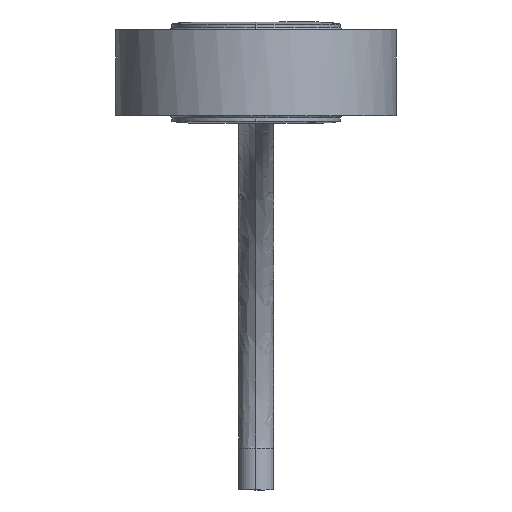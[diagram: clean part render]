
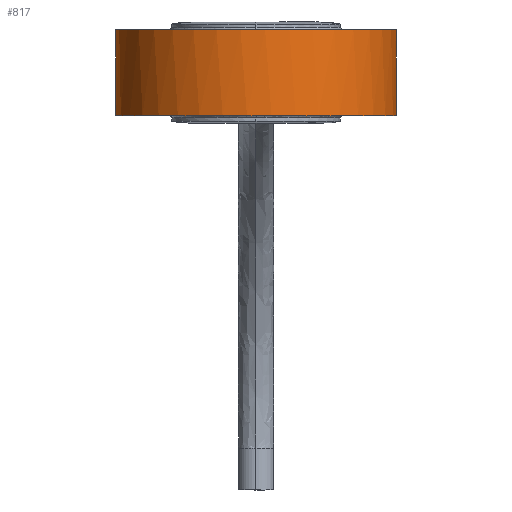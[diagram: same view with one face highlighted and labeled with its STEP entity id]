
A CAD part, front view. The second image highlights one B-rep face of the part: STEP entity #817.
In plain terms, the highlighted free-form (B-spline) face has degree [10, 1] with [11, 2] control points.
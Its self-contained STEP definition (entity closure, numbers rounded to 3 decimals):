
#15 = CARTESIAN_POINT ( 'NONE',  ( 15.033, 4.754, 0.506 ) ) ;
#36 = VECTOR ( 'NONE', #246, 1000. ) ;
#50 = CARTESIAN_POINT ( 'NONE',  ( -3.25, 11.344, 0.65 ) ) ;
#57 = VERTEX_POINT ( 'NONE', #295 ) ;
#73 = CARTESIAN_POINT ( 'NONE',  ( 3.25, 11.344, 0.65 ) ) ;
#79 = ORIENTED_EDGE ( 'NONE', *, *, #1736, .T. ) ;
#98 = CARTESIAN_POINT ( 'NONE',  ( 3.25, 11.344, 7.85 ) ) ;
#187 = CARTESIAN_POINT ( 'NONE',  ( -15.055, 3.491, 0.65 ) ) ;
#189 = CARTESIAN_POINT ( 'NONE',  ( 12.004, -15.288, 0.506 ) ) ;
#204 = VERTEX_POINT ( 'NONE', #2318 ) ;
#205 = CARTESIAN_POINT ( 'NONE',  ( -8.864, 10.49, 7.994 ) ) ;
#209 = VECTOR ( 'NONE', #589, 1000. ) ;
#246 = DIRECTION ( 'NONE',  ( 0., 0., 1. ) ) ;
#260 = VERTEX_POINT ( 'NONE', #2332 ) ;
#275 = ORIENTED_EDGE ( 'NONE', *, *, #900, .T. ) ;
#295 = CARTESIAN_POINT ( 'NONE',  ( -3.25, 11.344, 3.438 ) ) ;
#311 = EDGE_CURVE ( 'NONE', #550, #57, #2601, .T. ) ;
#331 = VERTEX_POINT ( 'NONE', #552 ) ;
#405 = CARTESIAN_POINT ( 'NONE',  ( 1.933, 11.641, 7.994 ) ) ;
#414 = EDGE_CURVE ( 'NONE', #260, #204, #2395, .T. ) ;
#420 = CARTESIAN_POINT ( 'NONE',  ( -15.033, 4.754, 0.506 ) ) ;
#425 = B_SPLINE_SURFACE_WITH_KNOTS ( 'NONE', 10, 1, ( 
 ( #405, #1273 ),
 ( #1873, #1229 ),
 ( #868, #15 ),
 ( #2685, #2058 ),
 ( #1013, #189 ),
 ( #620, #812 ),
 ( #460, #1259 ),
 ( #1026, #2697 ),
 ( #1645, #420 ),
 ( #205, #2709 ),
 ( #1697, #2535 ) ),
 .UNSPECIFIED., .F., .F., .F.,
 ( 11, 11 ),
 ( 2, 2 ),
 ( -6.119, -0.165 ),
 ( 0.216, 7.704 ),
 .UNSPECIFIED. ) ;
#459 = EDGE_LOOP ( 'NONE', ( #275, #1312, #648, #685, #2169, #1671, #79, #2597 ) ) ;
#460 = CARTESIAN_POINT ( 'NONE',  ( -11.957, -15.288, 7.994 ) ) ;
#518 = VECTOR ( 'NONE', #656, 1000. ) ;
#546 = EDGE_CURVE ( 'NONE', #799, #550, #802, .T. ) ;
#550 = VERTEX_POINT ( 'NONE', #1428 ) ;
#552 = CARTESIAN_POINT ( 'NONE',  ( 3.25, 11.344, 0.65 ) ) ;
#589 = DIRECTION ( 'NONE',  ( 0., 0., -1. ) ) ;
#594 = DIRECTION ( 'NONE',  ( 0., 0., -1. ) ) ;
#601 = CARTESIAN_POINT ( 'NONE',  ( -3.25, 11.344, 4.25 ) ) ;
#602 = CARTESIAN_POINT ( 'NONE',  ( 16.215, -5.786, 0.65 ) ) ;
#620 = CARTESIAN_POINT ( 'NONE',  ( -0.032, -20.326, 7.994 ) ) ;
#632 = CARTESIAN_POINT ( 'NONE',  ( -11.013, -15.072, 7.85 ) ) ;
#646 = CARTESIAN_POINT ( 'NONE',  ( -3.25, 11.344, 7.85 ) ) ;
#648 = ORIENTED_EDGE ( 'NONE', *, *, #2059, .T. ) ;
#650 = VECTOR ( 'NONE', #594, 1000. ) ;
#656 = DIRECTION ( 'NONE',  ( 0., 0., 1. ) ) ;
#661 = CARTESIAN_POINT ( 'NONE',  ( -3.25, 11.344, 7.85 ) ) ;
#685 = ORIENTED_EDGE ( 'NONE', *, *, #832, .T. ) ;
#799 = VERTEX_POINT ( 'NONE', #661 ) ;
#802 = LINE ( 'NONE', #2466, #650 ) ;
#810 = CARTESIAN_POINT ( 'NONE',  ( 11.046, -15.071, 0.65 ) ) ;
#812 = CARTESIAN_POINT ( 'NONE',  ( -0.032, -20.326, 0.506 ) ) ;
#817 = ADVANCED_FACE ( 'NONE', ( #2495 ), #425, .T. ) ;
#825 = CARTESIAN_POINT ( 'NONE',  ( -16.224, -5.786, 7.85 ) ) ;
#832 = EDGE_CURVE ( 'NONE', #2365, #799, #2183, .T. ) ;
#838 = CARTESIAN_POINT ( 'NONE',  ( -0.023, -19.409, 0.65 ) ) ;
#840 = CARTESIAN_POINT ( 'NONE',  ( 9.744, 9.483, 7.85 ) ) ;
#851 = CARTESIAN_POINT ( 'NONE',  ( -11.013, -15.072, 0.65 ) ) ;
#866 = CARTESIAN_POINT ( 'NONE',  ( -16.224, -5.786, 0.65 ) ) ;
#868 = CARTESIAN_POINT ( 'NONE',  ( 15.033, 4.754, 7.994 ) ) ;
#886 = B_SPLINE_CURVE_WITH_KNOTS ( 'NONE', 10,
 ( #1242, #2494, #187, #866, #851, #838, #810, #602, #1024, #1842, #1228 ),
 .UNSPECIFIED., .F., .F.,
 ( 11, 11 ),
 ( 0., 0.067 ),
 .UNSPECIFIED. ) ;
#900 = EDGE_CURVE ( 'NONE', #331, #260, #1913, .T. ) ;
#957 = VECTOR ( 'NONE', #1097, 1000. ) ;
#1013 = CARTESIAN_POINT ( 'NONE',  ( 12.004, -15.288, 7.994 ) ) ;
#1024 = CARTESIAN_POINT ( 'NONE',  ( 15.053, 3.491, 0.65 ) ) ;
#1026 = CARTESIAN_POINT ( 'NONE',  ( -17.023, -5.004, 7.994 ) ) ;
#1097 = DIRECTION ( 'NONE',  ( 0., 0., 1. ) ) ;
#1228 = CARTESIAN_POINT ( 'NONE',  ( 3.25, 11.344, 0.65 ) ) ;
#1229 = CARTESIAN_POINT ( 'NONE',  ( 8.864, 10.49, 0.506 ) ) ;
#1242 = CARTESIAN_POINT ( 'NONE',  ( -3.25, 11.344, 0.65 ) ) ;
#1243 = VERTEX_POINT ( 'NONE', #50 ) ;
#1259 = CARTESIAN_POINT ( 'NONE',  ( -11.957, -15.288, 0.506 ) ) ;
#1273 = CARTESIAN_POINT ( 'NONE',  ( 1.933, 11.641, 0.506 ) ) ;
#1312 = ORIENTED_EDGE ( 'NONE', *, *, #414, .T. ) ;
#1428 = CARTESIAN_POINT ( 'NONE',  ( -3.25, 11.344, 5.062 ) ) ;
#1452 = CARTESIAN_POINT ( 'NONE',  ( 15.053, 3.491, 7.85 ) ) ;
#1465 = CARTESIAN_POINT ( 'NONE',  ( -15.055, 3.491, 7.85 ) ) ;
#1491 = CARTESIAN_POINT ( 'NONE',  ( -0.023, -19.409, 7.85 ) ) ;
#1587 = CARTESIAN_POINT ( 'NONE',  ( -3.25, 11.344, 4.25 ) ) ;
#1626 = EDGE_CURVE ( 'NONE', #1243, #331, #886, .T. ) ;
#1645 = CARTESIAN_POINT ( 'NONE',  ( -15.033, 4.754, 7.994 ) ) ;
#1668 = CARTESIAN_POINT ( 'NONE',  ( 16.215, -5.786, 7.85 ) ) ;
#1671 = ORIENTED_EDGE ( 'NONE', *, *, #311, .T. ) ;
#1693 = VECTOR ( 'NONE', #1967, 1000. ) ;
#1697 = CARTESIAN_POINT ( 'NONE',  ( -1.933, 11.641, 7.994 ) ) ;
#1736 = EDGE_CURVE ( 'NONE', #57, #1243, #1854, .T. ) ;
#1842 = CARTESIAN_POINT ( 'NONE',  ( 9.744, 9.483, 0.65 ) ) ;
#1844 = CARTESIAN_POINT ( 'NONE',  ( 3.25, 11.344, 7.85 ) ) ;
#1854 = LINE ( 'NONE', #601, #209 ) ;
#1858 = CARTESIAN_POINT ( 'NONE',  ( 11.046, -15.071, 7.85 ) ) ;
#1873 = CARTESIAN_POINT ( 'NONE',  ( 8.864, 10.49, 7.994 ) ) ;
#1913 = LINE ( 'NONE', #73, #36 ) ;
#1967 = DIRECTION ( 'NONE',  ( 0., 0., -1. ) ) ;
#2058 = CARTESIAN_POINT ( 'NONE',  ( 17.006, -5.004, 0.506 ) ) ;
#2059 = EDGE_CURVE ( 'NONE', #204, #2365, #2336, .T. ) ;
#2154 = CARTESIAN_POINT ( 'NONE',  ( 3.25, 11.344, 5.062 ) ) ;
#2169 = ORIENTED_EDGE ( 'NONE', *, *, #546, .T. ) ;
#2183 = B_SPLINE_CURVE_WITH_KNOTS ( 'NONE', 10,
 ( #1844, #840, #1452, #1668, #1858, #1491, #632, #825, #1465, #2298, #646 ),
 .UNSPECIFIED., .F., .F.,
 ( 11, 11 ),
 ( 0., 0.067 ),
 .UNSPECIFIED. ) ;
#2298 = CARTESIAN_POINT ( 'NONE',  ( -9.744, 9.483, 7.85 ) ) ;
#2318 = CARTESIAN_POINT ( 'NONE',  ( 3.25, 11.344, 5.062 ) ) ;
#2332 = CARTESIAN_POINT ( 'NONE',  ( 3.25, 11.344, 3.438 ) ) ;
#2336 = LINE ( 'NONE', #2154, #518 ) ;
#2365 = VERTEX_POINT ( 'NONE', #98 ) ;
#2395 = LINE ( 'NONE', #2602, #957 ) ;
#2466 = CARTESIAN_POINT ( 'NONE',  ( -3.25, 11.344, 4.25 ) ) ;
#2494 = CARTESIAN_POINT ( 'NONE',  ( -9.744, 9.483, 0.65 ) ) ;
#2495 = FACE_OUTER_BOUND ( 'NONE', #459, .T. ) ;
#2535 = CARTESIAN_POINT ( 'NONE',  ( -1.933, 11.641, 0.506 ) ) ;
#2597 = ORIENTED_EDGE ( 'NONE', *, *, #1626, .T. ) ;
#2601 = LINE ( 'NONE', #1587, #1693 ) ;
#2602 = CARTESIAN_POINT ( 'NONE',  ( 3.25, 11.344, 3.438 ) ) ;
#2685 = CARTESIAN_POINT ( 'NONE',  ( 17.006, -5.004, 7.994 ) ) ;
#2697 = CARTESIAN_POINT ( 'NONE',  ( -17.023, -5.004, 0.506 ) ) ;
#2709 = CARTESIAN_POINT ( 'NONE',  ( -8.864, 10.49, 0.506 ) ) ;
